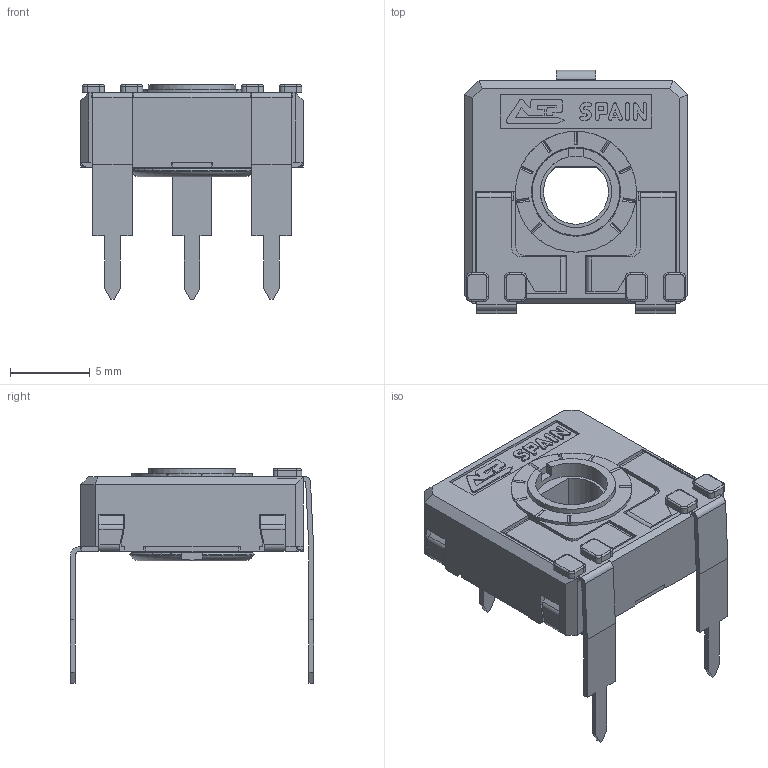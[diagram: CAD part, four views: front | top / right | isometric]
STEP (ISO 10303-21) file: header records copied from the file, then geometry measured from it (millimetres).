
FILE_DESCRIPTION(/* description */ (''),/* implementation_level */ '2;1');
FILE_NAME(/* name */ '\\SERVERACP\intercambio\Ignacio Santa Cecilia\Nueva WEB 2025\CA14 - CE14\CA14DVJ15.stp',/* time_stamp */ '2025-06-06T09:50:59+02:00',/* author */ ('CEM'),/* organization */ (''),/* preprocessor_version */ 'ST-DEVELOPER v17',/* originating_system */ 'Autodesk Inventor 2018',/* authorisation */ '');
FILE_SCHEMA (('AUTOMOTIVE_DESIGN { 1 0 10303 214 3 1 1 }'));
Length unit declared in the file: millimetre
Products named in the file (1): CARCASA CA14 PGA
Bounding box: 14 x 15.3 x 13.5 mm (x, y, z)
Volume: 537.8 mm3; surface area: 1528.5 mm2
Topology: 1 solids, 1 shells, 674 faces, 1905 edges, 1227 vertices
Faces by surface type: plane 499, cylinder 138, torus 23, bspline 8, cone 6
Full cylindrical faces by diameter (mm): 4.5 x1, 5.5 x1, 5.6 x1, 5.752 x1, 6.8 x1, 7.6 x1
Entity records: 22025 total; most frequent: CARTESIAN_POINT 4104, ORIENTED_EDGE 3810, DIRECTION 3555, EDGE_CURVE 1905, LINE 1499, VECTOR 1499, VERTEX_POINT 1227, AXIS2_PLACEMENT_3D 1028
